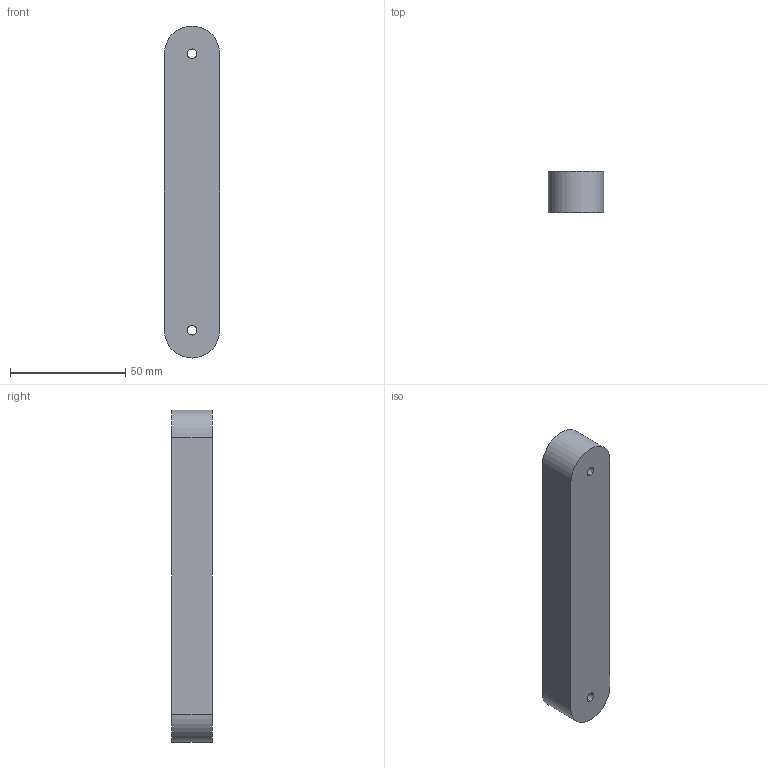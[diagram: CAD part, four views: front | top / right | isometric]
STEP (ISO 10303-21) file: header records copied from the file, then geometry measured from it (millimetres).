
FILE_DESCRIPTION (( 'STEP AP214' ), '1' );
FILE_NAME ('Calf_Body.STEP', '2026-07-28T10:15:00', ( '' ), ( '' ), 'SwSTEP 2.0', 'SolidWorks 2024', '' );
FILE_SCHEMA (( 'AUTOMOTIVE_DESIGN' ));
Length unit declared in the file: millimetre
Products named in the file (1): Calf_Body
Bounding box: 24 x 17.7 x 144 mm (x, y, z)
Volume: 58357.6 mm3; surface area: 12707 mm2
Topology: 1 solids, 1 shells, 14 faces, 33 edges, 22 vertices
Faces by surface type: cylinder 9, plane 5
Entity records: 446 total; most frequent: DIRECTION 81, CARTESIAN_POINT 70, ORIENTED_EDGE 66, AXIS2_PLACEMENT_3D 33, EDGE_CURVE 33, VERTEX_POINT 22, EDGE_LOOP 19, CIRCLE 18
